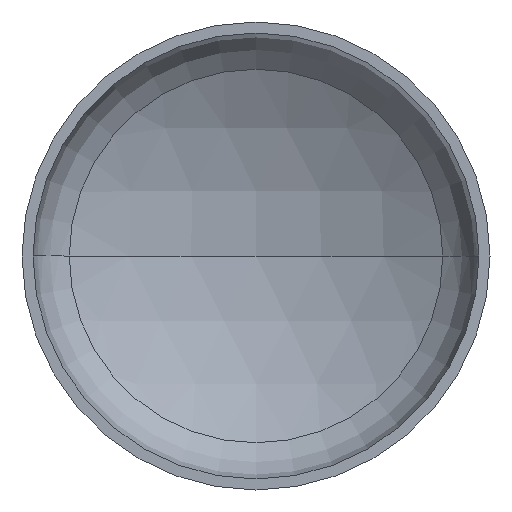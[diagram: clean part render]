
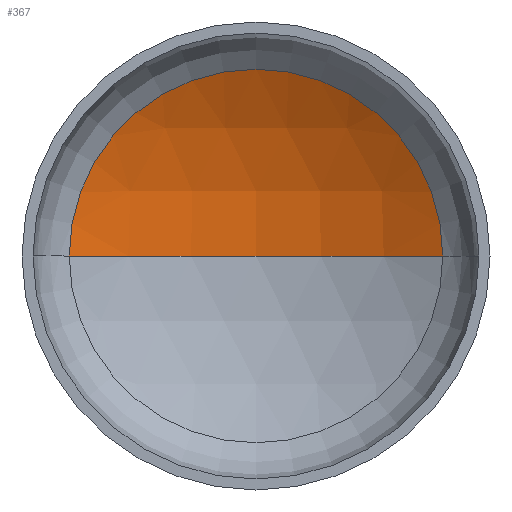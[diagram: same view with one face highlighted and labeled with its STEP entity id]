
A CAD part, front view. The second image highlights one B-rep face of the part: STEP entity #367.
In plain terms, the highlighted spherical face has radius 2720 mm.
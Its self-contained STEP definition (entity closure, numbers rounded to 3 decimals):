
#4 = AXIS2_PLACEMENT_3D ( 'NONE', #124, #252, #82 ) ;
#5 = AXIS2_PLACEMENT_3D ( 'NONE', #196, #116, #20 ) ;
#11 = AXIS2_PLACEMENT_3D ( 'NONE', #142, #355, #78 ) ;
#20 = DIRECTION ( 'NONE',  ( 1., 0., 0. ) ) ;
#50 = EDGE_LOOP ( 'NONE', ( #191, #143, #126 ) ) ;
#78 = DIRECTION ( 'NONE',  ( 1., 0., 0. ) ) ;
#82 = DIRECTION ( 'NONE',  ( -1., 0., 0. ) ) ;
#116 = DIRECTION ( 'NONE',  ( 0., 0., 1. ) ) ;
#124 = CARTESIAN_POINT ( 'NONE',  ( 0., -1782.367, 0. ) ) ;
#126 = ORIENTED_EDGE ( 'NONE', *, *, #351, .T. ) ;
#134 = VERTEX_POINT ( 'NONE', #308 ) ;
#142 = CARTESIAN_POINT ( 'NONE',  ( 0., 575.008, 0. ) ) ;
#143 = ORIENTED_EDGE ( 'NONE', *, *, #384, .T. ) ;
#160 = SPHERICAL_SURFACE ( 'NONE', #4, 2720. ) ;
#169 = VERTEX_POINT ( 'NONE', #210 ) ;
#170 = VERTEX_POINT ( 'NONE', #303 ) ;
#174 = CARTESIAN_POINT ( 'NONE',  ( 0., -1782.367, 0. ) ) ;
#191 = ORIENTED_EDGE ( 'NONE', *, *, #368, .F. ) ;
#194 = DIRECTION ( 'NONE',  ( -1., 0., 0. ) ) ;
#195 = DIRECTION ( 'NONE',  ( 0., 0., -1. ) ) ;
#196 = CARTESIAN_POINT ( 'NONE',  ( 0., -1782.367, 0. ) ) ;
#210 = CARTESIAN_POINT ( 'NONE',  ( 0., 937.633, 0. ) ) ;
#251 = CIRCLE ( 'NONE', #5, 2720. ) ;
#252 = DIRECTION ( 'NONE',  ( 0., 0., -1. ) ) ;
#261 = AXIS2_PLACEMENT_3D ( 'NONE', #174, #195, #194 ) ;
#293 = FACE_OUTER_BOUND ( 'NONE', #50, .T. ) ;
#303 = CARTESIAN_POINT ( 'NONE',  ( 1356.902, 575.008, 0. ) ) ;
#308 = CARTESIAN_POINT ( 'NONE',  ( -1356.902, 575.008, 0. ) ) ;
#351 = EDGE_CURVE ( 'NONE', #170, #134, #360, .T. ) ;
#355 = DIRECTION ( 'NONE',  ( 0., -1., 0. ) ) ;
#360 = CIRCLE ( 'NONE', #11, 1356.902 ) ;
#367 = ADVANCED_FACE ( 'NONE', ( #293 ), #160, .F. ) ;
#368 = EDGE_CURVE ( 'NONE', #169, #134, #251, .T. ) ;
#384 = EDGE_CURVE ( 'NONE', #169, #170, #395, .T. ) ;
#395 = CIRCLE ( 'NONE', #261, 2720. ) ;
